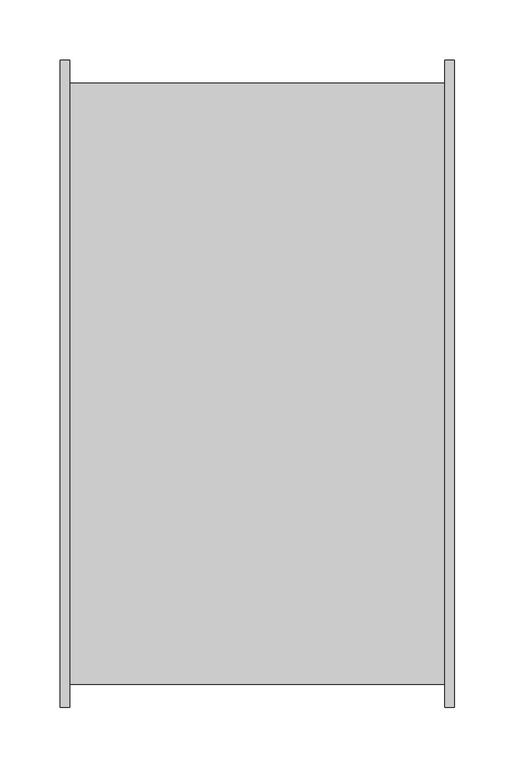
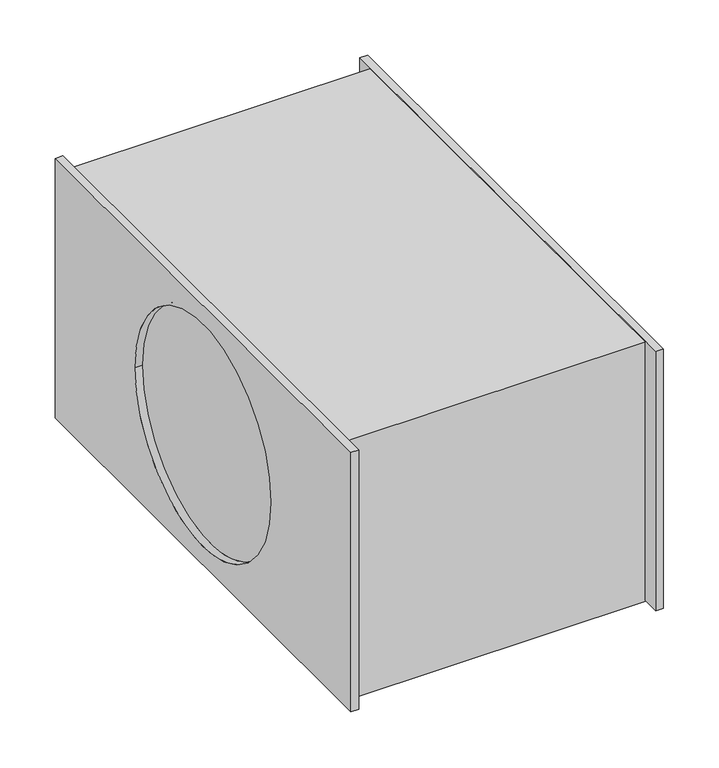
"""IFC4 building model written with IfcOpenShell, lengths in millimetres: unitary equipment geometry, VE-Wentylator-ParaForma-Harmann-JETTEC_REC-Nawiewny : 050/25/1700S."""

from ifc_helpers import new_model, si_unit, frame, origin, place, context, project, spatial, polyline, circle_curve, source, transform, mapped, element, save
from ifc_brep_helpers import plane_surface, revolved_surface, advanced_brep


def unitary_equipment_3027b97f(model_context):
    return source(origin(), model_context, "Body", "AdvancedBrep", [
        advanced_brep(
        [(156.0, -269.0, -144.0), (156.0, -269.0, 144.0), (156.0, 269.0, 144.0), (156.0, 269.0, -144.0), (156.0, 250.0, -144.0), (156.0, 250.0, 143.0), (156.0, -250.0, 143.0), (156.0, -250.0, -144.0), (164.0, -269.0, -144.0), (164.0, 269.0, -144.0), (164.0, 269.0, 144.0), (164.0, -269.0, 144.0), (164.0, -123.5, 0.0), (164.0, 123.5, 0.0), (156.0, 123.5, 0.0), (156.0, -123.5, 0.0), (-156.0, 250.0, -145.0), (-156.0, -250.0, -145.0), (-156.0, -250.0, -144.0), (-156.0, 250.0, -144.0), (-156.0, -123.5, 0.0), (-156.0, 123.5, 0.0), (156.0, -250.0, -145.0), (156.0, 250.0, -145.0), (-156.0, -250.0, 143.0), (-156.0, 250.0, 143.0), (-164.0, -269.0, -144.0), (-164.0, -269.0, 144.0), (-164.0, 269.0, 144.0), (-164.0, 269.0, -144.0), (-164.0, 123.5, 0.0), (-164.0, -123.5, 0.0), (-156.0, 269.0, -144.0), (-156.0, 269.0, 144.0), (-156.0, -269.0, 144.0), (-156.0, -269.0, -144.0)],
        [
            (0, 1),
            (1, 2),
            (2, 3),
            (3, 4),
            (4, 5),
            (5, 6),
            (6, 7),
            (7, 0),
            (8, 9),
            (9, 10),
            (10, 11),
            (11, 8),
            (12, 13, circle_curve(frame((164.0, 0.0, 0.0), z_axis=(-1.0, 0.0, 0.0), x_axis=(0.0, 1.0, 0.0)), 123.5)),
            (13, 12, circle_curve(frame((164.0, 0.0, 0.0), z_axis=(-1.0, 0.0, 0.0), x_axis=(0.0, 1.0, 0.0)), 123.5)),
            (0, 8),
            (11, 1),
            (10, 2),
            (9, 3),
            (7, 4),
            (14, 13),
            (12, 15),
            (15, 14, circle_curve(frame((156.0, 0.0, 0.0), z_axis=(-1.0, 0.0, 0.0), x_axis=(0.0, 1.0, 0.0)), 123.5)),
            (14, 15, circle_curve(frame((156.0, 0.0, 0.0), z_axis=(-1.0, 0.0, 0.0), x_axis=(0.0, 1.0, 0.0)), 123.5)),
            (16, 17),
            (17, 18),
            (18, 19),
            (19, 16),
            (20, 21, circle_curve(frame((-156.0, 0.0, 0.0), z_axis=(-1.0, 0.0, 0.0), x_axis=(0.0, 1.0, 0.0)), 123.5)),
            (21, 20, circle_curve(frame((-156.0, 0.0, 0.0), z_axis=(-1.0, 0.0, 0.0), x_axis=(0.0, 1.0, 0.0)), 123.5)),
            (22, 23),
            (23, 4),
            (7, 22),
            (17, 22),
            (6, 24),
            (24, 18),
            (5, 25),
            (25, 24),
            (23, 16),
            (19, 25),
            (26, 27),
            (27, 28),
            (28, 29),
            (29, 26),
            (30, 31, circle_curve(frame((-164.0, 0.0, 0.0), z_axis=(1.0, 0.0, 0.0), x_axis=(0.0, 1.0, 0.0)), 123.5)),
            (31, 30, circle_curve(frame((-164.0, 0.0, 0.0), z_axis=(1.0, 0.0, 0.0), x_axis=(0.0, 1.0, 0.0)), 123.5)),
            (32, 33),
            (33, 34),
            (34, 35),
            (35, 18),
            (19, 32),
            (26, 35),
            (34, 27),
            (33, 28),
            (32, 29),
            (30, 21),
            (20, 31),
        ],
        [
            plane_surface(frame((156.0, 0.0, 0.0), z_axis=(-1.0, 0.0, 0.0), x_axis=(0.0, 0.0, 1.0))),
            plane_surface(frame((164.0, 0.0, 0.0), z_axis=(1.0, 0.0, 0.0), x_axis=(0.0, 0.0, 1.0))),
            plane_surface(frame((156.0, -269.0, -144.0), z_axis=(0.0, -1.0, 0.0), x_axis=(1.0, 0.0, 0.0))),
            plane_surface(frame((156.0, -269.0, 144.0), z_axis=(0.0, 0.0, 1.0), x_axis=(1.0, 0.0, 0.0))),
            plane_surface(frame((156.0, 269.0, 144.0), z_axis=(0.0, 1.0, 0.0), x_axis=(1.0, 0.0, 0.0))),
            plane_surface(frame((156.0, 269.0, -144.0), z_axis=(0.0, 0.0, -1.0), x_axis=(1.0, 0.0, 0.0))),
            revolved_surface(polyline([(156.0, 123.5, 0.0), (164.0, 123.5, 0.0)]), (156.0, 0.0, 0.0), (-1.0, 0.0, 0.0)),
            plane_surface(frame((-156.0, 0.0, 0.0), z_axis=(-1.0, 0.0, 0.0), x_axis=(0.0, 0.0, 1.0))),
            plane_surface(frame((156.0, 0.0, 0.0), z_axis=(1.0, 0.0, 0.0), x_axis=(0.0, 0.0, 1.0))),
            plane_surface(frame((-156.0, -250.0, -145.0), z_axis=(0.0, -1.0, 0.0), x_axis=(1.0, 0.0, 0.0))),
            plane_surface(frame((-156.0, -250.0, 143.0), z_axis=(0.0, 0.0, 1.0), x_axis=(1.0, 0.0, 0.0))),
            plane_surface(frame((-156.0, 250.0, 143.0), z_axis=(0.0, 1.0, 0.0), x_axis=(1.0, 0.0, 0.0))),
            plane_surface(frame((-156.0, 250.0, -145.0), z_axis=(0.0, 0.0, -1.0), x_axis=(1.0, 0.0, 0.0))),
            plane_surface(frame((-164.0, 0.0, 0.0), z_axis=(-1.0, 0.0, 0.0), x_axis=(0.0, 0.0, 1.0))),
            plane_surface(frame((-156.0, 0.0, 0.0), z_axis=(1.0, 0.0, 0.0), x_axis=(0.0, 0.0, 1.0))),
            plane_surface(frame((-164.0, -269.0, -144.0), z_axis=(0.0, -1.0, 0.0), x_axis=(1.0, 0.0, 0.0))),
            plane_surface(frame((-164.0, -269.0, 144.0), z_axis=(0.0, 0.0, 1.0), x_axis=(1.0, 0.0, 0.0))),
            plane_surface(frame((-164.0, 269.0, 144.0), z_axis=(0.0, 1.0, 0.0), x_axis=(1.0, 0.0, 0.0))),
            plane_surface(frame((-164.0, 269.0, -144.0), z_axis=(0.0, 0.0, -1.0), x_axis=(1.0, 0.0, 0.0))),
            revolved_surface(polyline([(-164.0, 123.5, 0.0), (-156.0, 123.5, 0.0)]), (-164.0, 0.0, 0.0), (-1.0, 0.0, 0.0)),
        ],
        [
            (0, [[1, 2, 3, 4, 5, 6, 7, 8]]),
            (1, [[9, 10, 11, 12], [13, 14]]),
            (2, [[-1, 15, -12, 16]]),
            (3, [[-2, -16, -11, 17]]),
            (4, [[-3, -17, -10, 18]]),
            (5, [[-9, -15, -8, 19, -4, -18]]),
            (6, [[20, -13, 21, 22]]),
            (6, [[-20, 23, -21, -14]]),
            (7, [[24, 25, 26, 27]]),
            (7, [[28, 29]]),
            (8, [[-22, -23]]),
            (8, [[30, 31, -19, 32]]),
            (9, [[33, -32, -7, 34, 35, -25]]),
            (10, [[-34, -6, 36, 37]]),
            (11, [[-36, -5, -31, 38, -27, 39]]),
            (12, [[-24, -38, -30, -33]]),
            (13, [[40, 41, 42, 43], [44, 45]]),
            (14, [[46, 47, 48, 49, -35, -37, -39, 50]]),
            (15, [[-40, 51, -48, 52]]),
            (16, [[-41, -52, -47, 53]]),
            (17, [[-42, -53, -46, 54]]),
            (18, [[-43, -54, -50, -26, -49, -51]]),
            (19, [[55, -28, 56, -44]]),
            (19, [[-55, -45, -56, -29]]),
        ],
    ),
    ])


if __name__ == "__main__":
    model = new_model("IFC4")
    model_context = context("Model", 3, world=origin())
    ifc_project = project(units=[si_unit("LENGTHUNIT", "METRE", prefix="MILLI")], contexts=[model_context])
    site = spatial("IfcSite", under=ifc_project)
    building = spatial("IfcBuilding", under=site)
    placement = place(None, origin())
    unitary_equipment_shape = unitary_equipment_3027b97f(model_context)
    element("IfcUnitaryEquipment", 1, ObjectType="VE-Wentylator-ParaForma-Harmann-JETTEC_REC-Nawiewny : 050/25/1700S", at=placement, inside=building, context=model_context, shape_type="MappedRepresentation", body=[
        mapped(unitary_equipment_shape, transform((0.0, 0.0, 0.0), x_axis=(1.0, 0.0, 0.0), y_axis=(0.0, 1.0, 0.0), z_axis=(0.0, 0.0, 1.0))),
    ])
    save(model, "model.ifc")
